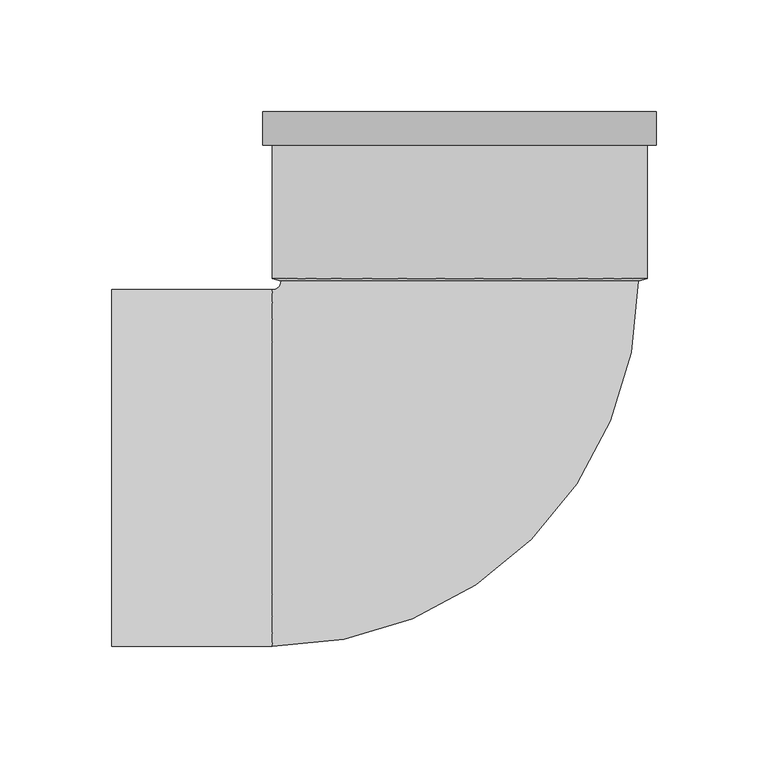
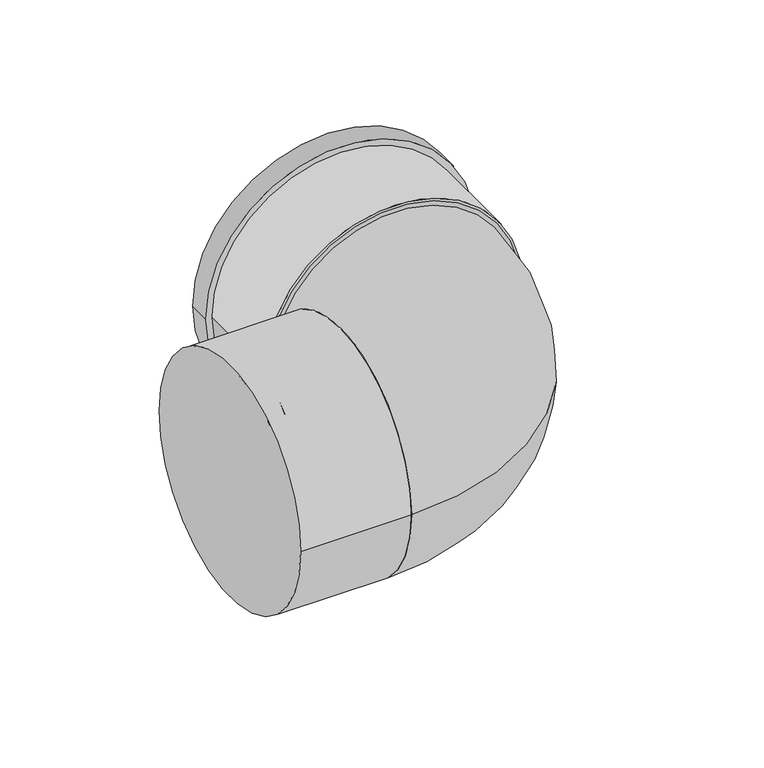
"""IFC4 building model written with IfcOpenShell, lengths in millimetres: pipe fitting geometry, Superdrain HT bend : Superdrain HT Bend."""

from ifc_helpers import new_model, si_unit, point, frame, origin, origin_2d, place, context, project, spatial, polyline, circle_curve, ellipse_curve, trimmed, segment, composite_curve, outline, extrude, source, transform, mapped, element, save
from ifc_brep_helpers import plane_surface, revolved_surface, advanced_brep


def pipe_fitting_67239808(model_context):
    return source(origin(), model_context, "Body", "SolidModel", [
        advanced_brep(
        [(80.0, 83.9, 0.0), (-80.0, 83.9, 0.0), (-83.9, -80.0, 0.0), (-83.9, 80.0, 0.0)],
        [
            (0, 1, circle_curve(frame((0.0, 83.9, 0.0), z_axis=(0.0, 1.0, 0.0), x_axis=(-1.0, 0.0, 0.0)), 80.0)),
            (1, 0, circle_curve(frame((0.0, 83.9, 0.0), z_axis=(0.0, 1.0, 0.0), x_axis=(-1.0, 0.0, 0.0)), 80.0)),
            (2, 3, circle_curve(frame((-83.9, 0.0, 0.0), z_axis=(-1.0, 0.0, 0.0), x_axis=(0.0, 1.0, 0.0)), 80.0)),
            (3, 2, circle_curve(frame((-83.9, 0.0, 0.0), z_axis=(-1.0, 0.0, 0.0), x_axis=(0.0, 1.0, 0.0)), 80.0)),
            (3, 1, circle_curve(frame((-83.9, 83.9, 0.0), z_axis=(0.0, 0.0, 1.0), x_axis=(1.0, 0.0, 0.0)), 3.9)),
            (0, 2, circle_curve(frame((-83.9, 83.9, 0.0), z_axis=(0.0, 0.0, -1.0), x_axis=(1.0, 0.0, 0.0)), 163.9)),
        ],
        [
            plane_surface(frame((0.0, 83.9, 0.0), z_axis=(0.0, 1.0, 0.0), x_axis=(0.0, 0.0, -1.0))),
            plane_surface(frame((-83.9, 0.0, 0.0), z_axis=(-1.0, 0.0, 0.0), x_axis=(0.0, 0.0, -1.0))),
            revolved_surface(trimmed(ellipse_curve(frame((0.0, 83.9, 0.0), z_axis=(0.0, -1.0, 0.0), x_axis=(-1.0, 0.0, 0.0)), 80.0, 80.0), [point((-80.0, 83.9, 0.0))], [point((80.0, 83.9, 0.0))], True, "CARTESIAN"), (-83.9, 83.9, 0.0), (0.0, 0.0, 1.0)),
            revolved_surface(trimmed(ellipse_curve(frame((0.0, 83.9, 0.0), z_axis=(0.0, -1.0, 0.0), x_axis=(-1.0, 0.0, 0.0)), 80.0, 80.0), [point((80.0, 83.9, 0.0))], [point((-80.0, 83.9, 0.0))], True, "CARTESIAN"), (-83.9, 83.9, 0.0), (0.0, 0.0, 1.0)),
        ],
        [
            (0, [[1, 2]]),
            (1, [[3, 4]]),
            (2, [[-4, 5, -1, 6]]),
            (3, [[-3, -6, -2, -5]]),
        ],
    ),
        extrude(outline(composite_curve([segment(trimmed(circle_curve(origin_2d(), 84.0), [point((0.0, 84.0))], [point((0.0, -84.0))], False, "CARTESIAN"), True, "CONTINUOUS"), segment(trimmed(circle_curve(origin_2d(), 84.0), [point((0.0, -84.0))], [point((0.0, 84.0))], False, "CARTESIAN"), True, "CONTINUOUS")], self_intersect=False), holes=[composite_curve([segment(trimmed(circle_curve(origin_2d(), 80.0), [point((0.0, 80.0))], [point((0.0, -80.0))], True, "CARTESIAN"), True, "CONTINUOUS"), segment(trimmed(circle_curve(origin_2d(), 80.0), [point((0.0, -80.0))], [point((0.0, 80.0))], True, "CARTESIAN"), True, "CONTINUOUS")], self_intersect=False)]), frame((0.0, 84.9, 0.0), z_axis=(0.0, 1.0, 0.0), x_axis=(0.0, 0.0, 1.0)), (0.0, 0.0, 1.0), 75.0),
        extrude(outline(composite_curve([segment(trimmed(circle_curve(origin_2d(), 88.2), [point((0.0, -88.2))], [point((0.0, 88.2))], False, "CARTESIAN"), True, "CONTINUOUS"), segment(trimmed(circle_curve(origin_2d(), 88.2), [point((0.0, 88.2))], [point((0.0, -88.2))], False, "CARTESIAN"), True, "CONTINUOUS")], self_intersect=False), holes=[composite_curve([segment(trimmed(circle_curve(origin_2d(), 80.0), [point((0.0, -80.0))], [point((0.0, 80.0))], True, "CARTESIAN"), True, "CONTINUOUS"), segment(trimmed(circle_curve(origin_2d(), 80.0), [point((0.0, 80.0))], [point((0.0, -80.0))], True, "CARTESIAN"), True, "CONTINUOUS")], self_intersect=False)]), frame((0.0, 144.9, 0.0), z_axis=(0.0, 1.0, 0.0), x_axis=(0.0, 0.0, 1.0)), (0.0, 0.0, 1.0), 15.0),
        advanced_brep(
        [(84.0, 84.9, 0.0), (-84.0, 84.9, 0.0), (80.0, 83.9, 0.0), (-80.0, 83.9, 0.0)],
        [
            (0, 1, circle_curve(frame((0.0, 84.9, 0.0), z_axis=(0.0, 1.0, 0.0), x_axis=(1.0, 0.0, 0.0)), 84.0)),
            (1, 0, circle_curve(frame((0.0, 84.9, 0.0), z_axis=(0.0, 1.0, 0.0), x_axis=(-1.0, 0.0, 0.0)), 84.0)),
            (2, 3, circle_curve(frame((0.0, 83.9, 0.0), z_axis=(0.0, -1.0, 0.0), x_axis=(-1.0, 0.0, 0.0)), 80.0)),
            (3, 2, circle_curve(frame((0.0, 83.9, 0.0), z_axis=(0.0, -1.0, 0.0), x_axis=(1.0, 0.0, 0.0)), 80.0)),
            (3, 1),
            (0, 2),
        ],
        [
            plane_surface(frame((0.0, 84.9, 0.0), z_axis=(0.0, 1.0, 0.0), x_axis=(0.0, 0.0, -1.0))),
            plane_surface(frame((0.0, 83.9, 0.0), z_axis=(0.0, -1.0, 0.0), x_axis=(0.0, 0.0, -1.0))),
            revolved_surface(polyline([(-80.0, 83.9, 0.0), (-84.0, 84.9, 0.0)]), (0.0, 63.9, 0.0), (0.0, 1.0, 0.0)),
            revolved_surface(polyline([(80.0, 83.9, 0.0), (84.0, 84.9, 0.0)]), (0.0, 63.9, 0.0), (0.0, 1.0, 0.0)),
        ],
        [
            (0, [[1, 2]]),
            (1, [[3, 4]]),
            (2, [[-4, 5, -1, 6]]),
            (3, [[-3, -6, -2, -5]]),
        ],
    ),
        extrude(outline(composite_curve([segment(trimmed(circle_curve(origin_2d(), 80.0), [point((-80.0, 0.0))], [point((80.0, 0.0))], False, "CARTESIAN"), True, "CONTINUOUS"), segment(trimmed(circle_curve(origin_2d(), 80.0), [point((80.0, 0.0))], [point((-80.0, 0.0))], False, "CARTESIAN"), True, "CONTINUOUS")], self_intersect=False)), frame((-156.0, 0.0, 0.0), z_axis=(1.0, 0.0, 0.0), x_axis=(0.0, 1.0, 0.0)), (0.0, 0.0, 1.0), 72.1),
    ])


if __name__ == "__main__":
    model = new_model("IFC4")
    model_context = context("Model", 3, world=origin())
    ifc_project = project(units=[si_unit("LENGTHUNIT", "METRE", prefix="MILLI")], contexts=[model_context])
    site = spatial("IfcSite", under=ifc_project)
    building = spatial("IfcBuilding", under=site)
    placement = place(None, origin())
    pipe_fitting_shape = pipe_fitting_67239808(model_context)
    element("IfcPipeFitting", 1, ObjectType="Superdrain HT bend : Superdrain HT Bend", at=placement, inside=building, context=model_context, shape_type="MappedRepresentation", body=[
        mapped(pipe_fitting_shape, transform((0.0, 0.0, 0.0), x_axis=(1.0, 0.0, 0.0), y_axis=(0.0, 1.0, 0.0), z_axis=(0.0, 0.0, 1.0))),
    ])
    save(model, "model.ifc")
